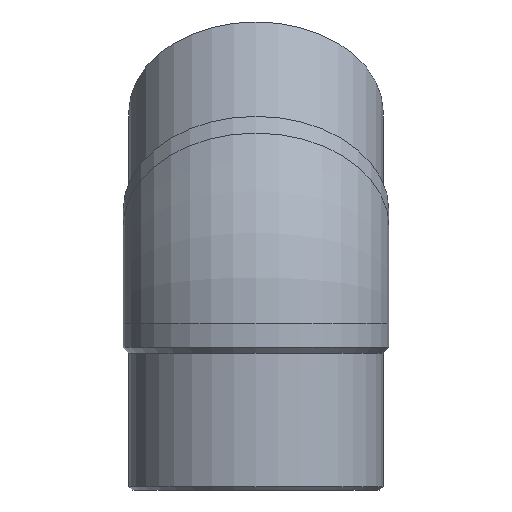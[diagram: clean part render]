
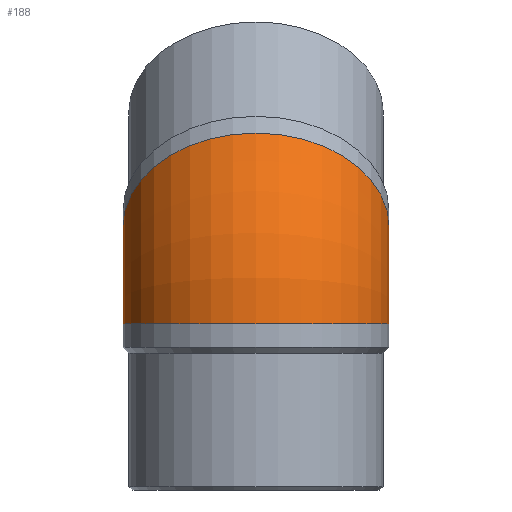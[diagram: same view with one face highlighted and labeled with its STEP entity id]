
A CAD part, left-side view. The second image highlights one B-rep face of the part: STEP entity #188.
In plain terms, the highlighted toroidal (fillet/blend) face has major radius 120.711 mm and minor radius 117.5 mm.
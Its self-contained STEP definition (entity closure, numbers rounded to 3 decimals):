
#20=TOROIDAL_SURFACE('',#225,120.711,117.5);
#53=ORIENTED_EDGE('',*,*,#86,.F.);
#54=ORIENTED_EDGE('',*,*,#87,.T.);
#86=EDGE_CURVE('',#104,#104,#118,.F.);
#87=EDGE_CURVE('',#105,#105,#119,.F.);
#104=VERTEX_POINT('',#349);
#105=VERTEX_POINT('',#352);
#118=CIRCLE('',#224,117.5);
#119=CIRCLE('',#226,117.5);
#136=EDGE_LOOP('',(#53));
#137=EDGE_LOOP('',(#54));
#163=FACE_BOUND('',#136,.T.);
#164=FACE_BOUND('',#137,.T.);
#188=ADVANCED_FACE('',(#163,#164),#20,.T.);
#224=AXIS2_PLACEMENT_3D('',#348,#270,#271);
#225=AXIS2_PLACEMENT_3D('',#350,#272,#273);
#226=AXIS2_PLACEMENT_3D('',#351,#274,#275);
#270=DIRECTION('',(-0.707,0.,-0.707));
#271=DIRECTION('',(0.707,0.,-0.707));
#272=DIRECTION('',(0.,1.,0.));
#273=DIRECTION('',(0.,0.,1.));
#274=DIRECTION('',(0.,0.,-1.));
#275=DIRECTION('',(1.,0.,0.));
#348=CARTESIAN_POINT('',(35.355,0.,35.355));
#349=CARTESIAN_POINT('',(118.44,0.,-47.73));
#350=CARTESIAN_POINT('',(120.711,0.,-50.));
#351=CARTESIAN_POINT('',(0.,0.,-50.));
#352=CARTESIAN_POINT('',(117.5,0.,-50.));
